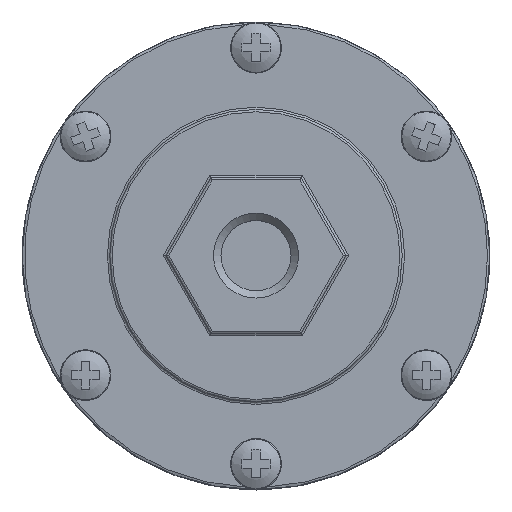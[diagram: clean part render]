
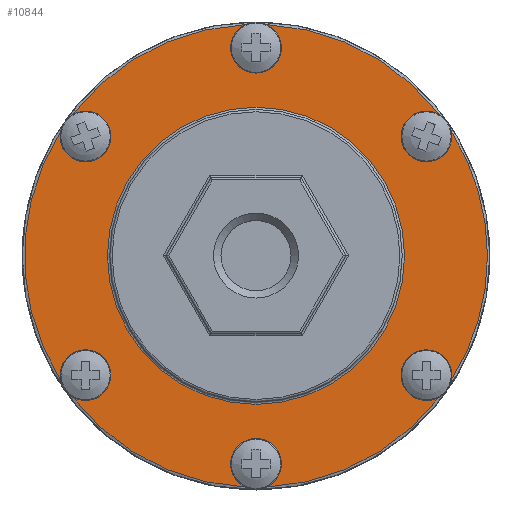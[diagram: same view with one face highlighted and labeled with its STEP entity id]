
A CAD part, top view. The second image highlights one B-rep face of the part: STEP entity #10844.
In plain terms, the highlighted planar face has unit normal (0, 0, 1).
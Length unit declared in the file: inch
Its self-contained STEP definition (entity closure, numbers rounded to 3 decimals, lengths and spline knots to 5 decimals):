
#442=FACE_BOUND('',#3461,.T.);
#2862=FACE_OUTER_BOUND('',#3460,.T.);
#3460=EDGE_LOOP('',(#7561,#7562,#7563,#7564,#7565,#7566,#7567,#7568,#7569,
#7570,#7571,#7572,#7573,#7574,#7575,#7576,#7577,#7578,#7579));
#3461=EDGE_LOOP('',(#7580));
#4130=CIRCLE('',#11553,0.1625);
#4132=CIRCLE('',#11555,0.1625);
#4133=CIRCLE('',#11557,0.1625);
#4134=CIRCLE('',#11558,0.1625);
#4135=CIRCLE('',#11559,1.485);
#4136=CIRCLE('',#11560,0.1625);
#4137=CIRCLE('',#11561,0.1625);
#4138=CIRCLE('',#11562,1.485);
#4139=CIRCLE('',#11563,0.1625);
#4140=CIRCLE('',#11564,0.1625);
#4141=CIRCLE('',#11565,1.485);
#4142=CIRCLE('',#11566,0.1625);
#4143=CIRCLE('',#11567,0.1625);
#4144=CIRCLE('',#11568,1.485);
#4145=CIRCLE('',#11569,1.485);
#4146=CIRCLE('',#11570,1.485);
#4147=CIRCLE('',#11571,0.1625);
#4148=CIRCLE('',#11572,0.1625);
#4149=CIRCLE('',#11573,1.485);
#4150=CIRCLE('',#11574,0.953);
#4651=VERTEX_POINT('',#15620);
#4652=VERTEX_POINT('',#15622);
#4653=VERTEX_POINT('',#15624);
#4654=VERTEX_POINT('',#15628);
#4655=VERTEX_POINT('',#15629);
#4656=VERTEX_POINT('',#15631);
#4657=VERTEX_POINT('',#15633);
#4658=VERTEX_POINT('',#15635);
#4659=VERTEX_POINT('',#15637);
#4660=VERTEX_POINT('',#15639);
#4661=VERTEX_POINT('',#15641);
#4662=VERTEX_POINT('',#15643);
#4663=VERTEX_POINT('',#15645);
#4664=VERTEX_POINT('',#15647);
#4665=VERTEX_POINT('',#15649);
#4666=VERTEX_POINT('',#15652);
#4667=VERTEX_POINT('',#15654);
#4668=VERTEX_POINT('',#15656);
#4669=VERTEX_POINT('',#15658);
#4670=VERTEX_POINT('',#15661);
#5772=EDGE_CURVE('',#4652,#4651,#4130,.T.);
#5774=EDGE_CURVE('',#4651,#4653,#4132,.T.);
#5775=EDGE_CURVE('',#4654,#4655,#4133,.T.);
#5776=EDGE_CURVE('',#4655,#4656,#4134,.T.);
#5777=EDGE_CURVE('',#4656,#4657,#4135,.T.);
#5778=EDGE_CURVE('',#4657,#4658,#4136,.T.);
#5779=EDGE_CURVE('',#4658,#4659,#4137,.T.);
#5780=EDGE_CURVE('',#4659,#4660,#4138,.T.);
#5781=EDGE_CURVE('',#4660,#4661,#4139,.T.);
#5782=EDGE_CURVE('',#4661,#4662,#4140,.T.);
#5783=EDGE_CURVE('',#4662,#4663,#4141,.T.);
#5784=EDGE_CURVE('',#4663,#4664,#4142,.T.);
#5785=EDGE_CURVE('',#4664,#4665,#4143,.T.);
#5786=EDGE_CURVE('',#4665,#4652,#4144,.T.);
#5787=EDGE_CURVE('',#4653,#4666,#4145,.T.);
#5788=EDGE_CURVE('',#4666,#4667,#4146,.T.);
#5789=EDGE_CURVE('',#4667,#4668,#4147,.T.);
#5790=EDGE_CURVE('',#4668,#4669,#4148,.T.);
#5791=EDGE_CURVE('',#4669,#4654,#4149,.T.);
#5792=EDGE_CURVE('',#4670,#4670,#4150,.T.);
#7561=ORIENTED_EDGE('',*,*,#5775,.T.);
#7562=ORIENTED_EDGE('',*,*,#5776,.T.);
#7563=ORIENTED_EDGE('',*,*,#5777,.T.);
#7564=ORIENTED_EDGE('',*,*,#5778,.T.);
#7565=ORIENTED_EDGE('',*,*,#5779,.T.);
#7566=ORIENTED_EDGE('',*,*,#5780,.T.);
#7567=ORIENTED_EDGE('',*,*,#5781,.T.);
#7568=ORIENTED_EDGE('',*,*,#5782,.T.);
#7569=ORIENTED_EDGE('',*,*,#5783,.T.);
#7570=ORIENTED_EDGE('',*,*,#5784,.T.);
#7571=ORIENTED_EDGE('',*,*,#5785,.T.);
#7572=ORIENTED_EDGE('',*,*,#5786,.T.);
#7573=ORIENTED_EDGE('',*,*,#5772,.T.);
#7574=ORIENTED_EDGE('',*,*,#5774,.T.);
#7575=ORIENTED_EDGE('',*,*,#5787,.T.);
#7576=ORIENTED_EDGE('',*,*,#5788,.T.);
#7577=ORIENTED_EDGE('',*,*,#5789,.T.);
#7578=ORIENTED_EDGE('',*,*,#5790,.T.);
#7579=ORIENTED_EDGE('',*,*,#5791,.T.);
#7580=ORIENTED_EDGE('',*,*,#5792,.T.);
#10489=PLANE('',#11556);
#10844=ADVANCED_FACE('',(#2862,#442),#10489,.F.);
#11553=AXIS2_PLACEMENT_3D('',#15623,#12806,#12807);
#11555=AXIS2_PLACEMENT_3D('',#15626,#12810,#12811);
#11556=AXIS2_PLACEMENT_3D('',#15627,#12812,#12813);
#11557=AXIS2_PLACEMENT_3D('',#15630,#12814,#12815);
#11558=AXIS2_PLACEMENT_3D('',#15632,#12816,#12817);
#11559=AXIS2_PLACEMENT_3D('',#15634,#12818,#12819);
#11560=AXIS2_PLACEMENT_3D('',#15636,#12820,#12821);
#11561=AXIS2_PLACEMENT_3D('',#15638,#12822,#12823);
#11562=AXIS2_PLACEMENT_3D('',#15640,#12824,#12825);
#11563=AXIS2_PLACEMENT_3D('',#15642,#12826,#12827);
#11564=AXIS2_PLACEMENT_3D('',#15644,#12828,#12829);
#11565=AXIS2_PLACEMENT_3D('',#15646,#12830,#12831);
#11566=AXIS2_PLACEMENT_3D('',#15648,#12832,#12833);
#11567=AXIS2_PLACEMENT_3D('',#15650,#12834,#12835);
#11568=AXIS2_PLACEMENT_3D('',#15651,#12836,#12837);
#11569=AXIS2_PLACEMENT_3D('',#15653,#12838,#12839);
#11570=AXIS2_PLACEMENT_3D('',#15655,#12840,#12841);
#11571=AXIS2_PLACEMENT_3D('',#15657,#12842,#12843);
#11572=AXIS2_PLACEMENT_3D('',#15659,#12844,#12845);
#11573=AXIS2_PLACEMENT_3D('',#15660,#12846,#12847);
#11574=AXIS2_PLACEMENT_3D('',#15662,#12848,#12849);
#12806=DIRECTION('center_axis',(0.,0.,-1.));
#12807=DIRECTION('ref_axis',(-1.,0.,0.));
#12810=DIRECTION('center_axis',(0.,0.,-1.));
#12811=DIRECTION('ref_axis',(-1.,0.,0.));
#12812=DIRECTION('center_axis',(0.,0.,-1.));
#12813=DIRECTION('ref_axis',(-1.,0.,0.));
#12814=DIRECTION('center_axis',(0.,0.,-1.));
#12815=DIRECTION('ref_axis',(-1.,0.,0.));
#12816=DIRECTION('center_axis',(0.,0.,-1.));
#12817=DIRECTION('ref_axis',(-1.,0.,0.));
#12818=DIRECTION('center_axis',(0.,0.,1.));
#12819=DIRECTION('ref_axis',(-0.044,0.999,0.));
#12820=DIRECTION('center_axis',(0.,0.,-1.));
#12821=DIRECTION('ref_axis',(-1.,0.,0.));
#12822=DIRECTION('center_axis',(0.,0.,-1.));
#12823=DIRECTION('ref_axis',(-1.,0.,0.));
#12824=DIRECTION('center_axis',(0.,0.,1.));
#12825=DIRECTION('ref_axis',(-1.,0.,0.));
#12826=DIRECTION('center_axis',(0.,0.,-1.));
#12827=DIRECTION('ref_axis',(1.,0.,0.));
#12828=DIRECTION('center_axis',(0.,0.,-1.));
#12829=DIRECTION('ref_axis',(1.,0.,0.));
#12830=DIRECTION('center_axis',(0.,0.,1.));
#12831=DIRECTION('ref_axis',(-0.793,-0.609,0.));
#12832=DIRECTION('center_axis',(0.,0.,-1.));
#12833=DIRECTION('ref_axis',(1.,0.,0.));
#12834=DIRECTION('center_axis',(0.,0.,-1.));
#12835=DIRECTION('ref_axis',(1.,0.,0.));
#12836=DIRECTION('center_axis',(0.,0.,1.));
#12837=DIRECTION('ref_axis',(0.044,-0.999,0.));
#12838=DIRECTION('center_axis',(0.,0.,1.));
#12839=DIRECTION('ref_axis',(1.,0.,0.));
#12840=DIRECTION('center_axis',(0.,0.,1.));
#12841=DIRECTION('ref_axis',(1.,0.,0.));
#12842=DIRECTION('center_axis',(0.,0.,-1.));
#12843=DIRECTION('ref_axis',(-1.,0.,0.));
#12844=DIRECTION('center_axis',(0.,0.,-1.));
#12845=DIRECTION('ref_axis',(-1.,0.,0.));
#12846=DIRECTION('center_axis',(0.,0.,1.));
#12847=DIRECTION('ref_axis',(0.793,0.609,0.));
#12848=DIRECTION('center_axis',(0.,0.,-1.));
#12849=DIRECTION('ref_axis',(1.,0.,0.));
#15620=CARTESIAN_POINT('',(1.25607,-0.76572,1.137));
#15622=CARTESIAN_POINT('',(1.17744,-0.90491,1.137));
#15623=CARTESIAN_POINT('Origin',(1.09357,-0.76572,1.137));
#15624=CARTESIAN_POINT('',(1.25304,-0.79694,1.137));
#15626=CARTESIAN_POINT('Origin',(1.09357,-0.76572,1.137));
#15627=CARTESIAN_POINT('Origin',(0.,0.,1.137));
#15628=CARTESIAN_POINT('',(0.0659,1.48354,1.137));
#15629=CARTESIAN_POINT('',(0.1625,1.335,1.137));
#15630=CARTESIAN_POINT('Origin',(0.,1.335,1.137));
#15631=CARTESIAN_POINT('',(-0.0659,1.48354,1.137));
#15632=CARTESIAN_POINT('Origin',(0.,1.335,1.137));
#15633=CARTESIAN_POINT('',(-1.17744,0.90491,1.137));
#15634=CARTESIAN_POINT('Origin',(0.,0.,1.137));
#15635=CARTESIAN_POINT('',(-0.93107,0.76572,1.137));
#15636=CARTESIAN_POINT('Origin',(-1.09357,0.76572,1.137));
#15637=CARTESIAN_POINT('',(-1.25304,0.79694,1.137));
#15638=CARTESIAN_POINT('Origin',(-1.09357,0.76572,1.137));
#15639=CARTESIAN_POINT('',(-1.25304,-0.79694,1.137));
#15640=CARTESIAN_POINT('Origin',(0.,0.,1.137));
#15641=CARTESIAN_POINT('',(-0.93107,-0.76572,1.137));
#15642=CARTESIAN_POINT('Origin',(-1.09357,-0.76572,1.137));
#15643=CARTESIAN_POINT('',(-1.17744,-0.90491,1.137));
#15644=CARTESIAN_POINT('Origin',(-1.09357,-0.76572,1.137));
#15645=CARTESIAN_POINT('',(-0.0659,-1.48354,1.137));
#15646=CARTESIAN_POINT('Origin',(0.,0.,1.137));
#15647=CARTESIAN_POINT('',(0.1625,-1.335,1.137));
#15648=CARTESIAN_POINT('Origin',(0.,-1.335,1.137));
#15649=CARTESIAN_POINT('',(0.0659,-1.48354,1.137));
#15650=CARTESIAN_POINT('Origin',(0.,-1.335,1.137));
#15651=CARTESIAN_POINT('Origin',(0.,0.,1.137));
#15652=CARTESIAN_POINT('',(1.485,0.,1.137));
#15653=CARTESIAN_POINT('Origin',(0.,0.,1.137));
#15654=CARTESIAN_POINT('',(1.25304,0.79694,1.137));
#15655=CARTESIAN_POINT('Origin',(0.,0.,1.137));
#15656=CARTESIAN_POINT('',(1.25607,0.76572,1.137));
#15657=CARTESIAN_POINT('Origin',(1.09357,0.76572,1.137));
#15658=CARTESIAN_POINT('',(1.17744,0.90491,1.137));
#15659=CARTESIAN_POINT('Origin',(1.09357,0.76572,1.137));
#15660=CARTESIAN_POINT('Origin',(0.,0.,1.137));
#15661=CARTESIAN_POINT('',(0.953,0.,1.137));
#15662=CARTESIAN_POINT('Origin',(0.,0.,1.137));
